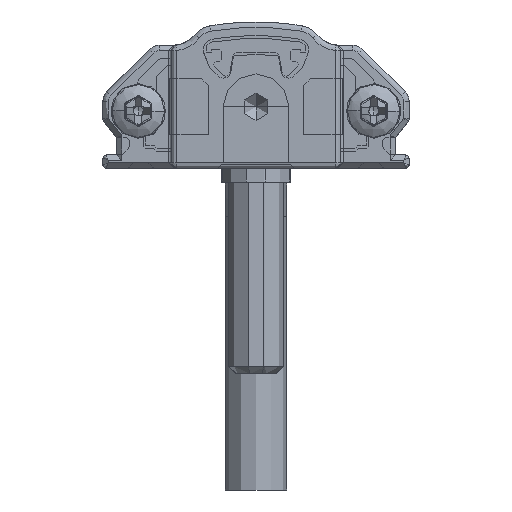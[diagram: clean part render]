
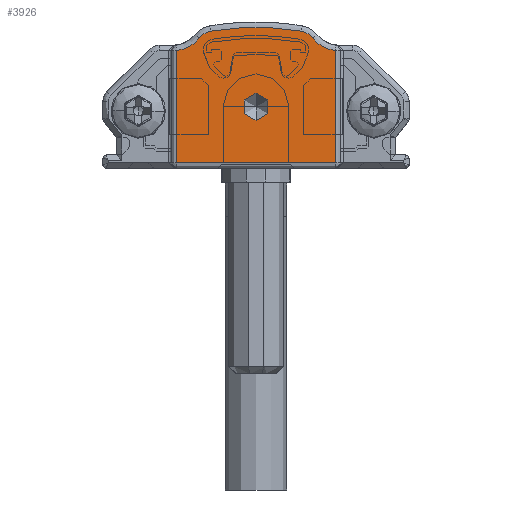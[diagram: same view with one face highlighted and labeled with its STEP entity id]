
A CAD part, front view. The second image highlights one B-rep face of the part: STEP entity #3926.
In plain terms, the highlighted planar face has unit normal (0, -1, 0).
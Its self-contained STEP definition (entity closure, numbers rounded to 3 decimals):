
#272 = ORIENTED_EDGE ( 'NONE', *, *, #10082, .F. ) ;
#333 = CARTESIAN_POINT ( 'NONE',  ( 17., -15., 8.612 ) ) ;
#389 = VERTEX_POINT ( 'NONE', #17988 ) ;
#905 = VERTEX_POINT ( 'NONE', #12031 ) ;
#1131 = DIRECTION ( 'NONE',  ( 0., 0., -1. ) ) ;
#1808 = EDGE_CURVE ( 'NONE', #3057, #20864, #18449, .T. ) ;
#2556 = CIRCLE ( 'NONE', #32764, 1.3 ) ;
#3057 = VERTEX_POINT ( 'NONE', #18098 ) ;
#3694 = DIRECTION ( 'NONE',  ( 0., -1., 0. ) ) ;
#3926 = ADVANCED_FACE ( 'NONE', ( #9328, #19488 ), #17297, .T. ) ;
#4068 = VECTOR ( 'NONE', #31005, 1000. ) ;
#4651 = CIRCLE ( 'NONE', #8946, 1.3 ) ;
#5387 = DIRECTION ( 'NONE',  ( 0., 0., -1. ) ) ;
#5980 = AXIS2_PLACEMENT_3D ( 'NONE', #22391, #33046, #7372 ) ;
#6066 = ORIENTED_EDGE ( 'NONE', *, *, #23405, .F. ) ;
#6355 = CARTESIAN_POINT ( 'NONE',  ( 11.2, -15., 3.5 ) ) ;
#7372 = DIRECTION ( 'NONE',  ( 0., 0., -1. ) ) ;
#7737 = CIRCLE ( 'NONE', #26615, 2.4 ) ;
#7741 = ORIENTED_EDGE ( 'NONE', *, *, #10711, .T. ) ;
#7787 = CIRCLE ( 'NONE', #9913, 2.4 ) ;
#7863 = VECTOR ( 'NONE', #10755, 1000. ) ;
#8418 = VERTEX_POINT ( 'NONE', #9620 ) ;
#8654 = CIRCLE ( 'NONE', #9195, 20.676 ) ;
#8946 = AXIS2_PLACEMENT_3D ( 'NONE', #20015, #3694, #17312 ) ;
#9195 = AXIS2_PLACEMENT_3D ( 'NONE', #28553, #18365, #5387 ) ;
#9328 = FACE_OUTER_BOUND ( 'NONE', #28990, .T. ) ;
#9620 = CARTESIAN_POINT ( 'NONE',  ( 15.332, -15., 9.541 ) ) ;
#9754 = DIRECTION ( 'NONE',  ( 0., 0., -1. ) ) ;
#9913 = AXIS2_PLACEMENT_3D ( 'NONE', #19302, #29630, #19990 ) ;
#10082 = EDGE_CURVE ( 'NONE', #16606, #21266, #11560, .T. ) ;
#10289 = ORIENTED_EDGE ( 'NONE', *, *, #19472, .T. ) ;
#10549 = CARTESIAN_POINT ( 'NONE',  ( 11.2, -15., 4.5 ) ) ;
#10711 = EDGE_CURVE ( 'NONE', #11885, #3057, #29533, .T. ) ;
#10755 = DIRECTION ( 'NONE',  ( 1., 0., 0. ) ) ;
#10914 = CARTESIAN_POINT ( 'NONE',  ( 17., -15., 0.4 ) ) ;
#11201 = ORIENTED_EDGE ( 'NONE', *, *, #1808, .T. ) ;
#11560 = CIRCLE ( 'NONE', #31581, 1. ) ;
#11885 = VERTEX_POINT ( 'NONE', #20764 ) ;
#12031 = CARTESIAN_POINT ( 'NONE',  ( 14.508, -15., 10.034 ) ) ;
#12555 = CARTESIAN_POINT ( 'NONE',  ( 22.15, -15., 3.606 ) ) ;
#13679 = ORIENTED_EDGE ( 'NONE', *, *, #24645, .T. ) ;
#14594 = CIRCLE ( 'NONE', #5980, 1. ) ;
#14695 = VERTEX_POINT ( 'NONE', #33295 ) ;
#16606 = VERTEX_POINT ( 'NONE', #6355 ) ;
#16867 = VECTOR ( 'NONE', #30479, 1000. ) ;
#17221 = DIRECTION ( 'NONE',  ( 0., -1., 0. ) ) ;
#17297 = PLANE ( 'NONE',  #20635 ) ;
#17312 = DIRECTION ( 'NONE',  ( 0., 0., -1. ) ) ;
#17988 = CARTESIAN_POINT ( 'NONE',  ( 5.4, -15., 8.612 ) ) ;
#18098 = CARTESIAN_POINT ( 'NONE',  ( 17., -15., 0.4 ) ) ;
#18327 = DIRECTION ( 'NONE',  ( 0., 0., -1. ) ) ;
#18365 = DIRECTION ( 'NONE',  ( 0., -1., 0. ) ) ;
#18383 = EDGE_CURVE ( 'NONE', #26730, #389, #7737, .T. ) ;
#18449 = LINE ( 'NONE', #30845, #4068 ) ;
#19302 = CARTESIAN_POINT ( 'NONE',  ( 17.238, -15., 11. ) ) ;
#19472 = EDGE_CURVE ( 'NONE', #20864, #8418, #7787, .T. ) ;
#19488 = FACE_BOUND ( 'NONE', #23730, .T. ) ;
#19649 = CARTESIAN_POINT ( 'NONE',  ( 5.4, -15., 0.4 ) ) ;
#19990 = DIRECTION ( 'NONE',  ( 0., 0., -1. ) ) ;
#20015 = CARTESIAN_POINT ( 'NONE',  ( 8.1, -15., 8.75 ) ) ;
#20326 = LINE ( 'NONE', #19649, #16867 ) ;
#20635 = AXIS2_PLACEMENT_3D ( 'NONE', #12555, #22690, #27957 ) ;
#20743 = EDGE_CURVE ( 'NONE', #8418, #905, #2556, .T. ) ;
#20764 = CARTESIAN_POINT ( 'NONE',  ( 5.4, -15., 0.4 ) ) ;
#20864 = VERTEX_POINT ( 'NONE', #333 ) ;
#20893 = DIRECTION ( 'NONE',  ( 0., -1., 0. ) ) ;
#21266 = VERTEX_POINT ( 'NONE', #32528 ) ;
#22391 = CARTESIAN_POINT ( 'NONE',  ( 11.2, -15., 4.5 ) ) ;
#22690 = DIRECTION ( 'NONE',  ( 0., -1., 0. ) ) ;
#23405 = EDGE_CURVE ( 'NONE', #21266, #16606, #14594, .T. ) ;
#23730 = EDGE_LOOP ( 'NONE', ( #272, #6066 ) ) ;
#24225 = ORIENTED_EDGE ( 'NONE', *, *, #18383, .T. ) ;
#24645 = EDGE_CURVE ( 'NONE', #389, #11885, #20326, .T. ) ;
#25340 = CARTESIAN_POINT ( 'NONE',  ( 14.3, -15., 8.75 ) ) ;
#26615 = AXIS2_PLACEMENT_3D ( 'NONE', #27140, #32040, #1131 ) ;
#26730 = VERTEX_POINT ( 'NONE', #26861 ) ;
#26861 = CARTESIAN_POINT ( 'NONE',  ( 7.068, -15., 9.541 ) ) ;
#27140 = CARTESIAN_POINT ( 'NONE',  ( 5.162, -15., 11. ) ) ;
#27841 = ORIENTED_EDGE ( 'NONE', *, *, #32950, .T. ) ;
#27957 = DIRECTION ( 'NONE',  ( 0., 0., -1. ) ) ;
#28553 = CARTESIAN_POINT ( 'NONE',  ( 11.2, -15., -10.376 ) ) ;
#28760 = EDGE_CURVE ( 'NONE', #14695, #26730, #4651, .T. ) ;
#28775 = ORIENTED_EDGE ( 'NONE', *, *, #28760, .T. ) ;
#28990 = EDGE_LOOP ( 'NONE', ( #11201, #10289, #31597, #27841, #28775, #24225, #13679, #7741 ) ) ;
#29533 = LINE ( 'NONE', #10914, #7863 ) ;
#29630 = DIRECTION ( 'NONE',  ( 0., 1., 0. ) ) ;
#30479 = DIRECTION ( 'NONE',  ( 0., 0., -1. ) ) ;
#30845 = CARTESIAN_POINT ( 'NONE',  ( 17., -15., 8.612 ) ) ;
#31005 = DIRECTION ( 'NONE',  ( 0., 0., 1. ) ) ;
#31581 = AXIS2_PLACEMENT_3D ( 'NONE', #10549, #20893, #18327 ) ;
#31597 = ORIENTED_EDGE ( 'NONE', *, *, #20743, .T. ) ;
#32040 = DIRECTION ( 'NONE',  ( 0., 1., 0. ) ) ;
#32528 = CARTESIAN_POINT ( 'NONE',  ( 11.2, -15., 5.5 ) ) ;
#32764 = AXIS2_PLACEMENT_3D ( 'NONE', #25340, #17221, #9754 ) ;
#32950 = EDGE_CURVE ( 'NONE', #905, #14695, #8654, .T. ) ;
#33046 = DIRECTION ( 'NONE',  ( 0., -1., 0. ) ) ;
#33295 = CARTESIAN_POINT ( 'NONE',  ( 7.892, -15., 10.034 ) ) ;
